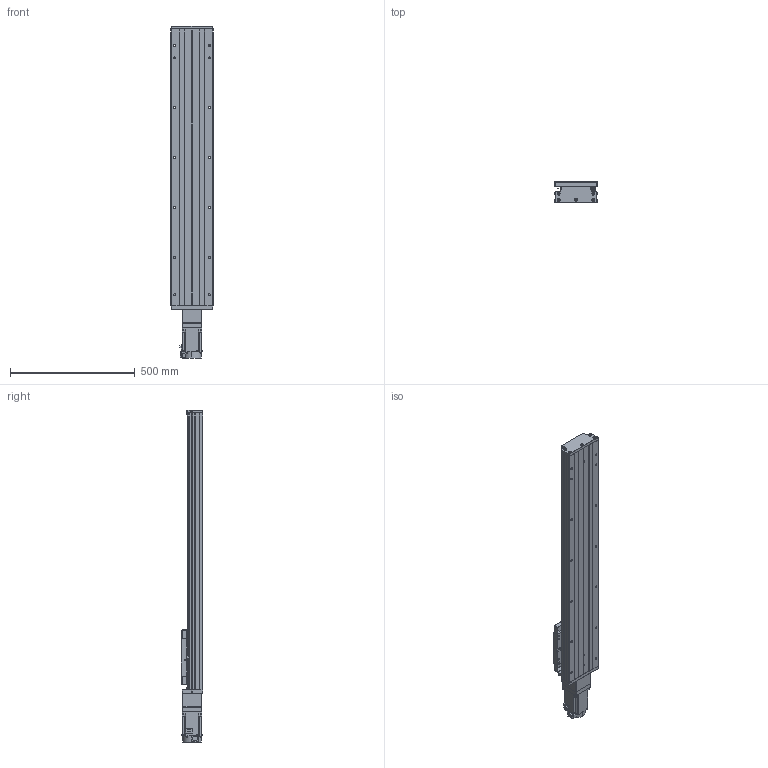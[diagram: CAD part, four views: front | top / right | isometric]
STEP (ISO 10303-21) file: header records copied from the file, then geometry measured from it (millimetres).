
FILE_DESCRIPTION (( 'STEP AP203' ), '1' );
FILE_NAME ('GTH17-850-BC-M75-C4.step', '2023-06-30T11:23:14', ( '微软用户' ), ( '微软中国' ), 'SwSTEP 2.0', 'SolidWorks 2020', '' );
FILE_SCHEMA (( 'CONFIG_CONTROL_DESIGN' ));
Length unit declared in the file: millimetre
Products named in the file (20): GTH17-002_GTH17-002; GBT 70.1-M3℅5; GTH17-006-2_M75; GTH17-004; GBT77-2000 M3×3; GTH17-013; GTH17-005; GBT 70.1-M6¡Á20_M6¡Á20; GTH17-027-1; GB1155-6X6; GTH17-031; HG-KN73J-S100; CTHA60-017; GBT 70.2-M3¡Á5_M3¡Á6; GTH17-850-BC-M75-C4; EE_SX911P_R; す晦芛蹟隊 M3℅5; GTH17-001_850; CTHA60-016; GBT 70.3-M3℅8
Assembly tree (57 placements, depth 2):
  GTH17-850-BC-M75-C4
    GTH17-001_850
    GTH17-002_GTH17-002
    GTH17-004
    GTH17-005
    GB1155-6X6  x2
    CTHA60-017  x3
    EE_SX911P_R  x3
    CTHA60-016  x2
    GBT 70.1-M3℅5  x6
    GBT77-2000 M3×3  x6
    GBT 70.1-M6¡Á20_M6¡Á20  x10
    GTH17-031
    GBT 70.2-M3¡Á5_M3¡Á6  x8
    す晦芛蹟隊 M3℅5  x6
    GBT 70.3-M3℅8  x2
    GTH17-006-2_M75
    GTH17-013
    GTH17-027-1
    HG-KN73J-S100
Bounding box: 171 x 87 x 1331.2 mm (x, y, z)
Volume: 10020419.9 mm3; surface area: 1282825.7 mm2
Topology: 60 solids, 60 shells, 2424 faces, 5797 edges, 3595 vertices
Faces by surface type: plane 1307, cylinder 670, cone 287, torus 120, sphere 20, bspline 20
Entity records: 45453 total; most frequent: CARTESIAN_POINT 10477, DIRECTION 6597, ORIENTED_EDGE 6510, EDGE_CURVE 3255, AXIS2_PLACEMENT_3D 2249, LINE 2099, VECTOR 2099, VERTEX_POINT 2063
